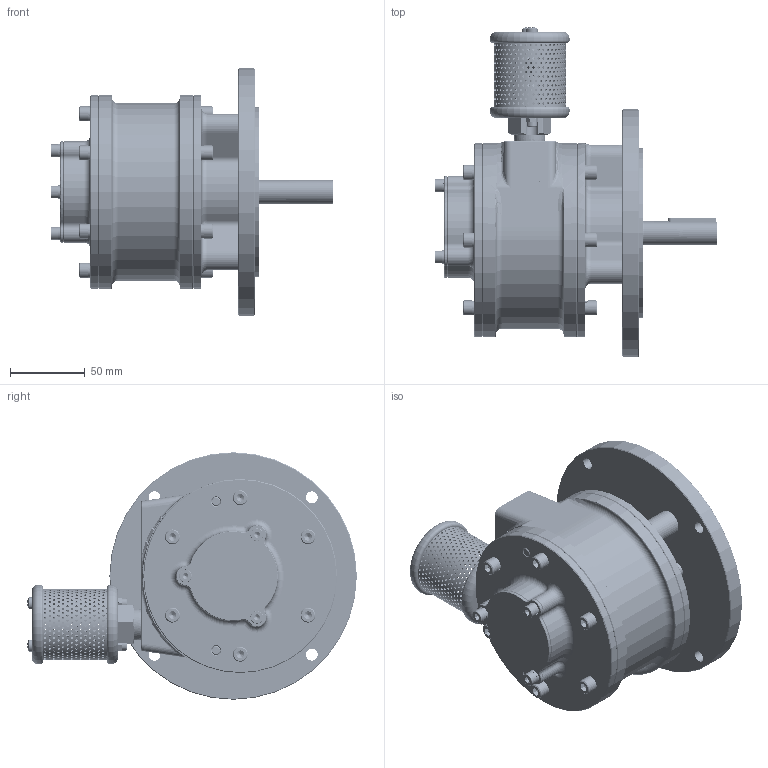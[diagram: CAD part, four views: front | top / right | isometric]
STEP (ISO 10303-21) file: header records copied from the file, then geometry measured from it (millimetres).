
FILE_DESCRIPTION (( 'STEP AP214' ), '1' );
FILE_NAME ('6VMN-SS (Nema).STEP', '2026-04-24T05:34:11', ( '' ), ( '' ), 'SwSTEP 2.0', 'SolidWorks 2017', '' );
FILE_SCHEMA (( 'AUTOMOTIVE_DESIGN' ));
Length unit declared in the file: millimetre
Products named in the file (2): 6VMN-SS (Nema)
Bounding box: 189.85 x 221.2 x 166 mm (x, y, z)
Volume: 836248.4 mm3; surface area: 282066.2 mm2
Topology: 65 solids, 65 shells, 4876 faces, 12547 edges, 7726 vertices
Faces by surface type: cylinder 2547, cone 1403, plane 700, torus 172, bspline 32, sphere 22
Entity records: 243082 total; most frequent: CARTESIAN_POINT 72447, ORIENTED_EDGE 24850, DIRECTION 22562, EDGE_CURVE 12425, AXIS2_PLACEMENT_3D 8826, VERTEX_POINT 7726, EDGE_LOOP 6537, UNCERTAINTY_MEASURE_WITH_UNIT 4912
